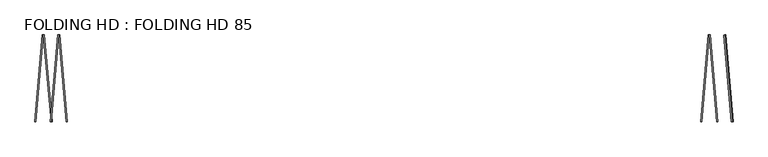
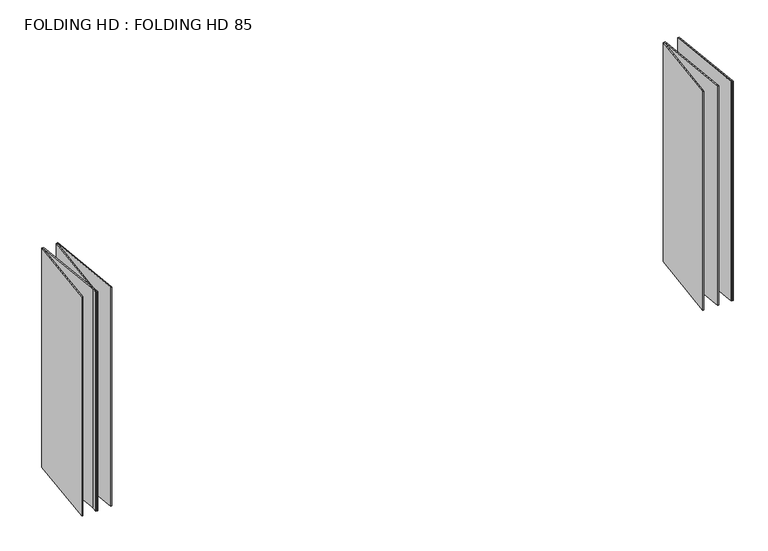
"""IFC4 building model written with IfcOpenShell, lengths in millimetres: plate geometry, FOLDING HD : FOLDING HD 85."""

from ifc_helpers import new_model, si_unit, origin, origin_with_axes, place, context, project, spatial, polyline, outline, extrude, source, transform, mapped, element, save


def folding_hd_folding_hd_85_a0ccf00b(model_context):
    return source(origin(), model_context, "Body", "SweptSolid", [
        extrude(outline(polyline([(3521.5598315, 896.5752283), (3599.9999995, 0.0), (3590.0380525, -0.8715574), (3511.5978845, 895.7036709), (3521.5598315, 896.5752283)])), origin_with_axes(), (0.0, 0.0, 1.0), 2570.0),
        extrude(outline(polyline([(3521.5598315, 896.5752283), (3531.5217785, 897.4467857), (3609.961947, 0.8715574), (3600.0, 0.0), (3521.5598315, 896.5752283)])), origin_with_axes(), (0.0, 0.0, 1.0), 2570.0),
        extrude(outline(polyline([(3364.6794946, 896.5752283), (3374.6414416, 897.4467857), (3453.08161, 0.8715574), (3443.1196631, 0.0), (3364.6794946, 896.5752283)])), origin_with_axes(), (0.0, 0.0, 1.0), 2570.0),
        extrude(outline(polyline([(3364.6794946, 896.5752283), (3286.2393261, 0.0), (3276.2773791, 0.8715574), (3354.7175476, 897.4467857), (3364.6794946, 896.5752283)])), origin_with_axes(), (0.0, 0.0, 1.0), 2570.0),
        extrude(outline(polyline([(-3364.6794946, 896.5752283), (-3443.1196631, 0.0), (-3453.08161, 0.8715574), (-3374.6414416, 897.4467857), (-3364.6794946, 896.5752283)])), origin_with_axes(), (0.0, 0.0, 1.0), 2570.0),
        extrude(outline(polyline([(-3364.6794946, 896.5752283), (-3354.7175476, 897.4467857), (-3276.2773791, 0.8715574), (-3286.2393261, 0.0), (-3364.6794946, 896.5752283)])), origin_with_axes(), (0.0, 0.0, 1.0), 2570.0),
        extrude(outline(polyline([(-3521.5598315, 896.5752283), (-3511.5978845, 897.4467857), (-3433.1577161, 0.8715574), (-3443.1196631, 0.0), (-3521.5598315, 896.5752283)])), origin_with_axes(), (0.0, 0.0, 1.0), 2570.0),
        extrude(outline(polyline([(-3521.5598315, 896.5752283), (-3600.0, 0.0), (-3609.961947, 0.8715574), (-3531.5217785, 897.4467857), (-3521.5598315, 896.5752283)])), origin_with_axes(), (0.0, 0.0, 1.0), 2570.0),
    ])


if __name__ == "__main__":
    model = new_model("IFC4")
    model_context = context("Model", 3, world=origin())
    ifc_project = project(units=[si_unit("LENGTHUNIT", "METRE", prefix="MILLI")], contexts=[model_context])
    site = spatial("IfcSite", under=ifc_project)
    building = spatial("IfcBuilding", under=site)
    placement = place(None, origin())
    folding_hd_folding_hd_85_shape = folding_hd_folding_hd_85_a0ccf00b(model_context)
    element("IfcPlate", 1, ObjectType="FOLDING HD : FOLDING HD 85", at=placement, inside=building, context=model_context, shape_type="MappedRepresentation", body=[
        mapped(folding_hd_folding_hd_85_shape, transform((0.0, 0.0, 0.0), x_axis=(1.0, 0.0, 0.0), y_axis=(0.0, 1.0, 0.0), z_axis=(0.0, 0.0, 1.0))),
    ])
    save(model, "model.ifc")
